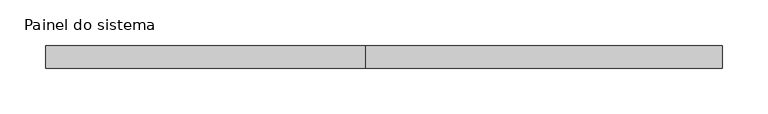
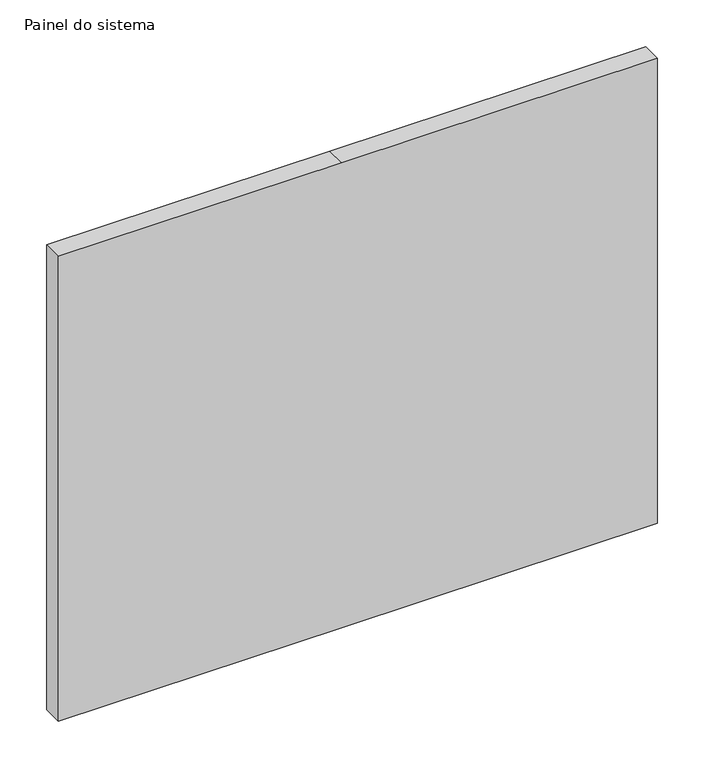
"""IFC4 building model written with IfcOpenShell, lengths in millimetres: plate geometry, Painel do sistema : Envidraçado."""

from ifc_helpers import new_model, si_unit, frame, origin, place, context, project, spatial, polyline, outline, extrude, source, transform, mapped, element, save


def painel_do_sistema_99c0024e(model_context):
    return source(origin(), model_context, "Body", "SweptSolid", [
        extrude(outline(polyline([(0.0, -371.6829921), (0.0, -19.983504), (0.0, 371.6829921), (610.0, 371.6829921), (610.0, -19.983504), (610.0, -371.6829921), (0.0, -371.6829921)])), frame((0.0, 24.5, 0.0), z_axis=(0.0, 1.0, 0.0), x_axis=(0.0, 0.0, 1.0)), (0.0, 0.0, 1.0), 25.0),
    ])


if __name__ == "__main__":
    model = new_model("IFC4")
    model_context = context("Model", 3, world=origin())
    ifc_project = project(units=[si_unit("LENGTHUNIT", "METRE", prefix="MILLI")], contexts=[model_context])
    site = spatial("IfcSite", under=ifc_project)
    building = spatial("IfcBuilding", under=site)
    placement = place(None, origin())
    painel_do_sistema_shape = painel_do_sistema_99c0024e(model_context)
    element("IfcPlate", 1, ObjectType="Painel do sistema : Envidraçado", at=placement, inside=building, context=model_context, shape_type="MappedRepresentation", body=[
        mapped(painel_do_sistema_shape, transform((0.0, 0.0, 0.0), x_axis=(1.0, 0.0, 0.0), y_axis=(0.0, 1.0, 0.0), z_axis=(0.0, 0.0, 1.0))),
    ])
    save(model, "model.ifc")
